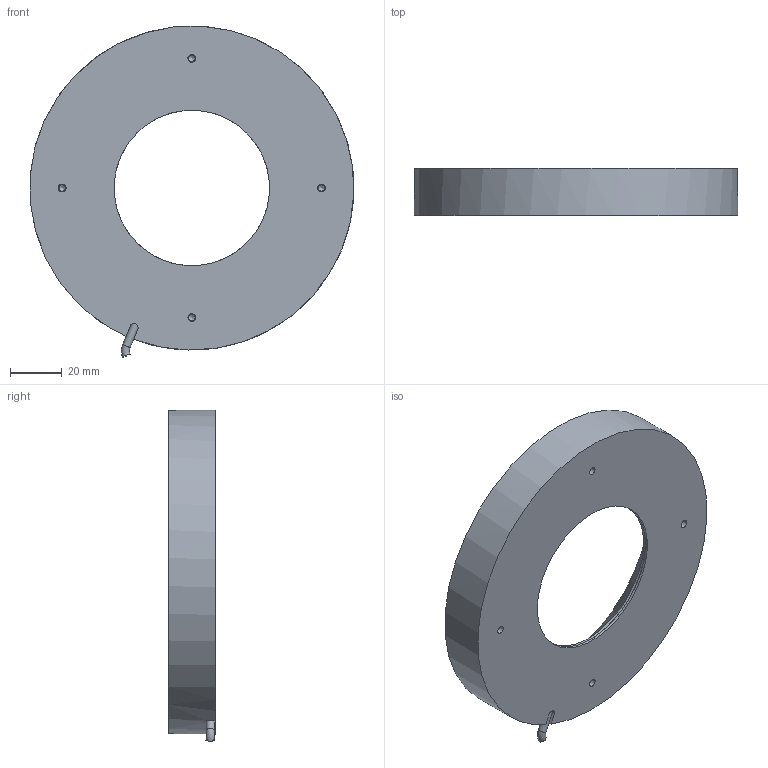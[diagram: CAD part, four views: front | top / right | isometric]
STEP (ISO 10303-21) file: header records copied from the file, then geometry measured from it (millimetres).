
FILE_DESCRIPTION(/* description */ (''),/* implementation_level */ '2;1');
FILE_NAME(/* name */ 'C:\#Vault-WorkDir\Konstruktions-Dokumente\Projekte\Zubehör allgemein\Falcon Beleuchtungen\153-00736_LR 100 xD-24-KFL5.stp',/* time_stamp */ '2018-07-26T09:49:47+02:00',/* author */ ('SensoPart'),/* organization */ ('SensoPart'),/* preprocessor_version */ 'ST-DEVELOPER v17',/* originating_system */ 'Autodesk Inventor 2018',/* authorisation */ '');
FILE_SCHEMA (('AUTOMOTIVE_DESIGN { 1 0 10303 214 3 1 1 }'));
Length unit declared in the file: millimetre
Products named in the file (1): GH-ENG-0026392_Shrinkwrap_2
Bounding box: 124.76 x 18 x 127.89 mm (x, y, z)
Volume: 134574.7 mm3; surface area: 53560.5 mm2
Topology: 2 solids, 2 shells, 62 faces, 168 edges, 122 vertices
Faces by surface type: cylinder 27, plane 23, cone 11, torus 1
Full cylindrical faces by diameter (mm): 1.6 x4, 2 x4, 2.5 x4, 3 x4, 3.1 x1, 3.2 x1, 60 x2, 109.5 x2, 122.8 x2, 125 x1
Entity records: 2237 total; most frequent: CARTESIAN_POINT 473, DIRECTION 377, ORIENTED_EDGE 320, AXIS2_PLACEMENT_3D 164, EDGE_CURVE 160, VERTEX_POINT 122, CIRCLE 99, EDGE_LOOP 86
